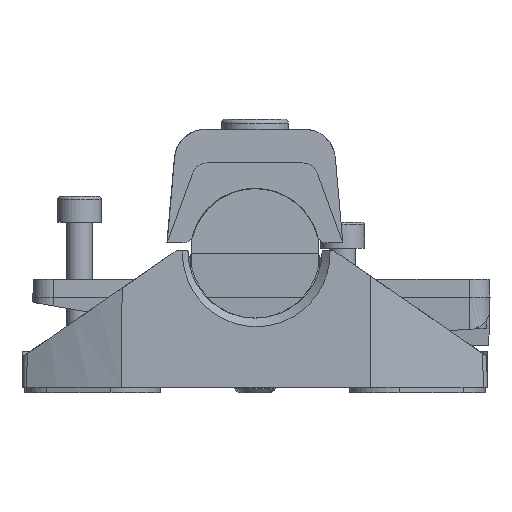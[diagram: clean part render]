
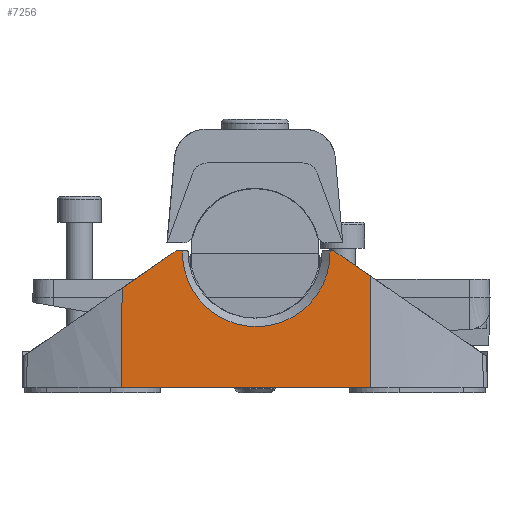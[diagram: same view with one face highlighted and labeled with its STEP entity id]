
A CAD part, left-side view. The second image highlights one B-rep face of the part: STEP entity #7256.
In plain terms, the highlighted planar face has unit normal (-1, 0.018, 0.026).
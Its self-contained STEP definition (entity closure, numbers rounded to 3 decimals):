
#4882=CARTESIAN_POINT('',(-96.552,-15.284,26.5));
#4883=VERTEX_POINT('',#4882);
#4890=CARTESIAN_POINT('',(-96.808,-22.352,21.624));
#4891=VERTEX_POINT('',#4890);
#4892=CARTESIAN_POINT('',(-96.552,-15.284,26.5));
#4893=DIRECTION('',(-0.03,-0.823,-0.568));
#4894=VECTOR('',#4893,8.59);
#4895=LINE('',#4892,#4894);
#4896=EDGE_CURVE('',#4891,#4883,#4895,.F.);
#4916=CARTESIAN_POINT('',(-96.,25.734,19.291));
#4917=VERTEX_POINT('',#4916);
#4927=CARTESIAN_POINT('',(-96.,15.284,26.5));
#4928=VERTEX_POINT('',#4927);
#4929=CARTESIAN_POINT('',(-96.,15.284,26.5));
#4930=DIRECTION('',(0.0,0.823,-0.568));
#4931=VECTOR('',#4930,12.696);
#4932=LINE('',#4929,#4931);
#4933=EDGE_CURVE('',#4928,#4917,#4932,.T.);
#6610=CARTESIAN_POINT('',(-96.023,14.023,26.5));
#6611=VERTEX_POINT('',#6610);
#6618=CARTESIAN_POINT('',(-96.539,-14.539,26.5));
#6619=VERTEX_POINT('',#6618);
#6620=CARTESIAN_POINT('',(-96.291,-0.258,26.126));
#6621=DIRECTION('',(0.999,-0.018,-0.026));
#6622=DIRECTION('',(-0.032,-0.568,-0.823));
#6623=AXIS2_PLACEMENT_3D('',#6620,#6621,#6622);
#6624=ELLIPSE('',#6623,14.298,14.283);
#6625=EDGE_CURVE('',#6611,#6619,#6624,.F.);
#6760=CARTESIAN_POINT('',(-96.552,-15.284,26.5));
#6761=DIRECTION('',(0.018,1.,0.0));
#6762=VECTOR('',#6761,0.746);
#6763=LINE('',#6760,#6762);
#6764=EDGE_CURVE('',#4883,#6619,#6763,.T.);
#7191=CARTESIAN_POINT('',(-97.375,-22.414,0.));
#7192=VERTEX_POINT('',#7191);
#7193=CARTESIAN_POINT('',(-96.808,-22.352,21.624));
#7194=CARTESIAN_POINT('',(-97.091,-22.383,10.828));
#7195=CARTESIAN_POINT('',(-97.375,-22.414,0.));
#7203=(BOUNDED_CURVE()B_SPLINE_CURVE(2,(#7193,#7194,#7195),.UNSPECIFIED.,.F.,.U.)B_SPLINE_CURVE_WITH_KNOTS((3,3),(110.902,113.042),.UNSPECIFIED.)CURVE()GEOMETRIC_REPRESENTATION_ITEM()RATIONAL_B_SPLINE_CURVE((1.,1.,1.))REPRESENTATION_ITEM(''));
#7204=EDGE_CURVE('',#7192,#4891,#7203,.F.);
#7217=CARTESIAN_POINT('',(-97.467,-27.555,0.019));
#7218=DIRECTION('',(-0.999,0.018,0.026));
#7219=DIRECTION('',(0.026,0.,1.));
#7220=AXIS2_PLACEMENT_3D('',#7217,#7218,#7219);
#7221=PLANE('',#7220);
#7222=ORIENTED_EDGE('',*,*,#6625,.F.);
#7223=CARTESIAN_POINT('',(-96.023,14.023,26.5));
#7224=DIRECTION('',(0.018,1.,0.0));
#7225=VECTOR('',#7224,1.262);
#7226=LINE('',#7223,#7225);
#7227=EDGE_CURVE('',#6611,#4928,#7226,.T.);
#7228=ORIENTED_EDGE('',*,*,#7227,.T.);
#7229=ORIENTED_EDGE('',*,*,#4933,.T.);
#7230=CARTESIAN_POINT('',(-96.504,25.808,0.));
#7231=VERTEX_POINT('',#7230);
#7232=CARTESIAN_POINT('',(-96.504,25.808,0.));
#7233=CARTESIAN_POINT('',(-96.252,25.771,9.658));
#7234=CARTESIAN_POINT('',(-96.,25.734,19.291));
#7242=(BOUNDED_CURVE()B_SPLINE_CURVE(2,(#7232,#7233,#7234),.UNSPECIFIED.,.F.,.U.)B_SPLINE_CURVE_WITH_KNOTS((3,3),(95.281,97.189),.UNSPECIFIED.)CURVE()GEOMETRIC_REPRESENTATION_ITEM()RATIONAL_B_SPLINE_CURVE((1.,1.,1.))REPRESENTATION_ITEM(''));
#7243=EDGE_CURVE('',#7231,#4917,#7242,.T.);
#7244=ORIENTED_EDGE('',*,*,#7243,.F.);
#7245=CARTESIAN_POINT('',(-97.375,-22.414,0.0));
#7246=DIRECTION('',(0.018,1.,0.0));
#7247=VECTOR('',#7246,48.229);
#7248=LINE('',#7245,#7247);
#7249=EDGE_CURVE('',#7231,#7192,#7248,.F.);
#7250=ORIENTED_EDGE('',*,*,#7249,.T.);
#7251=ORIENTED_EDGE('',*,*,#7204,.T.);
#7252=ORIENTED_EDGE('',*,*,#4896,.T.);
#7253=ORIENTED_EDGE('',*,*,#6764,.T.);
#7254=EDGE_LOOP('',(#7222,#7228,#7229,#7244,#7250,#7251,#7252,#7253));
#7255=FACE_OUTER_BOUND('',#7254,.T.);
#7256=ADVANCED_FACE('',(#7255),#7221,.T.);
